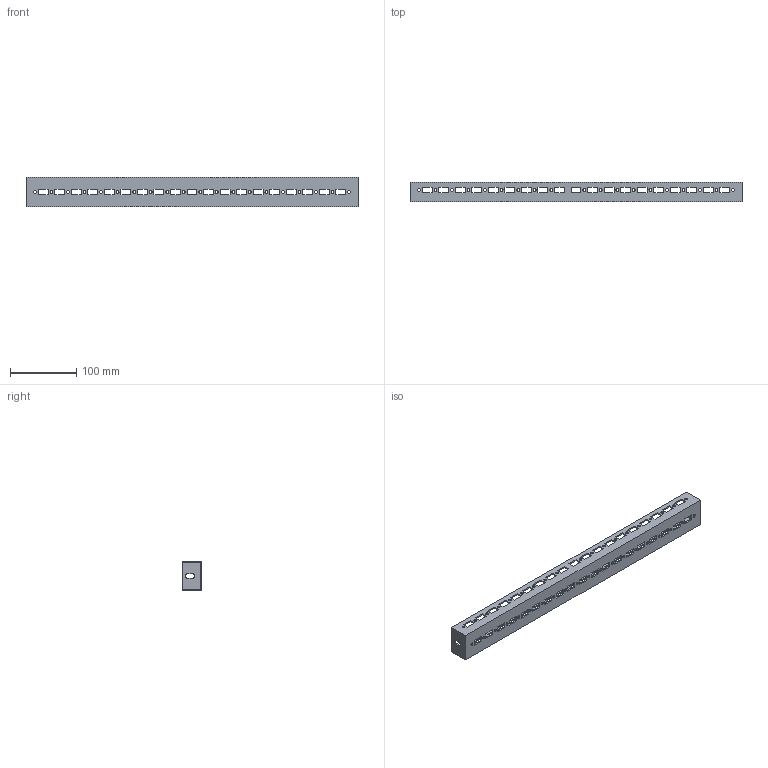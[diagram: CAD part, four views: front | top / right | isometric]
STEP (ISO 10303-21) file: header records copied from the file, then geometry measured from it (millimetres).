
FILE_DESCRIPTION((''),'2;1');
FILE_NAME('SCK607','2025-02-27T15:03:34',('dougp'),('SAGINAW CONTROL & ENGINEERING'),'CREO PARAMETRIC BY PTC INC, 2021284','CREO PARAMETRIC BY PTC INC, 2021284','');
FILE_SCHEMA(('AUTOMOTIVE_DESIGN { 1 0 10303 214 1 1 1 1 }'));
Length unit declared in the file: inch
Products named in the file (1): SCK607
Bounding box: 502 x 30 x 45 mm (x, y, z)
Volume: 88610.5 mm3; surface area: 97963.2 mm2
Topology: 1 solids, 1 shells, 363 faces, 1080 edges, 720 vertices
Faces by surface type: plane 243, cylinder 120
Entity records: 12720 total; most frequent: CARTESIAN_POINT 2165, ORIENTED_EDGE 2160, DIRECTION 2046, EDGE_CURVE 1080, VECTOR 840, LINE 840, VERTEX_POINT 720, AXIS2_PLACEMENT_3D 603
